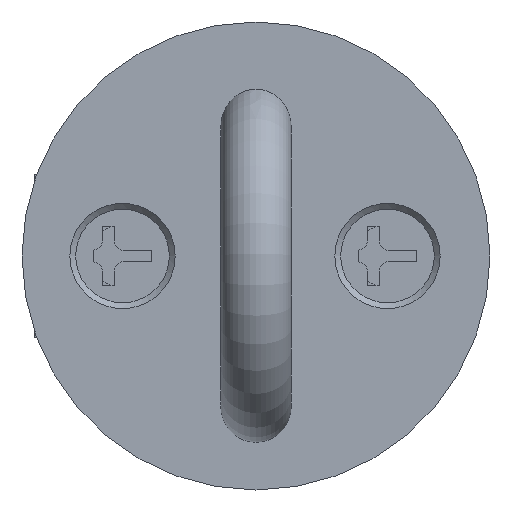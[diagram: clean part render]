
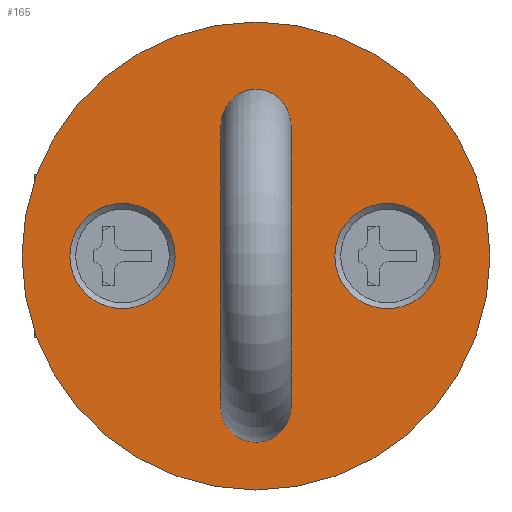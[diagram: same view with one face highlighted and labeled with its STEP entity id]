
A CAD part, front view. The second image highlights one B-rep face of the part: STEP entity #165.
In plain terms, the highlighted planar face has unit normal (0, -1, 0) as drawn and (0, 0, 1) by its records, which use the part's own axes.
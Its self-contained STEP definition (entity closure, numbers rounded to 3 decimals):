
#165=ADVANCED_FACE('',(#304,#305,#306,#307),#308,.T.);
#304=FACE_BOUND('',#464,.T.);
#305=FACE_BOUND('',#465,.T.);
#306=FACE_BOUND('',#466,.T.);
#307=FACE_OUTER_BOUND('',#467,.T.);
#308=PLANE('',#468);
#464=EDGE_LOOP('',(#629));
#465=EDGE_LOOP('',(#630));
#466=EDGE_LOOP('',(#631));
#467=EDGE_LOOP('',(#632));
#468=AXIS2_PLACEMENT_3D('',#633,#634,#635);
#629=ORIENTED_EDGE('',*,*,#973,.T.);
#630=ORIENTED_EDGE('',*,*,#974,.F.);
#631=ORIENTED_EDGE('',*,*,#975,.F.);
#632=ORIENTED_EDGE('',*,*,#976,.T.);
#633=CARTESIAN_POINT('',(20.0,20.0,7.5));
#634=DIRECTION('',(0.0,0.0,1.0));
#635=DIRECTION('',(-1.0,0.0,0.0));
#973=EDGE_CURVE('',#1121,#1121,#1122,.T.);
#974=EDGE_CURVE('',#1123,#1123,#1124,.T.);
#975=EDGE_CURVE('',#1125,#1125,#1126,.T.);
#976=EDGE_CURVE('',#1127,#1127,#1128,.T.);
#1121=VERTEX_POINT('',#1336);
#1122=CIRCLE('',#1337,3.0);
#1123=VERTEX_POINT('',#1338);
#1124=CIRCLE('',#1339,4.5);
#1125=VERTEX_POINT('',#1340);
#1126=CIRCLE('',#1341,4.5);
#1127=VERTEX_POINT('',#1342);
#1128=CIRCLE('',#1343,20.0);
#1336=CARTESIAN_POINT('',(35.914,20.0,7.5));
#1337=AXIS2_PLACEMENT_3D('',#1653,#1654,#1655);
#1338=CARTESIAN_POINT('',(20.0,26.739,7.5));
#1339=AXIS2_PLACEMENT_3D('',#1656,#1657,#1658);
#1340=CARTESIAN_POINT('',(20.0,4.09,7.5));
#1341=AXIS2_PLACEMENT_3D('',#1659,#1660,#1661);
#1342=CARTESIAN_POINT('',(0.,20.0,7.5));
#1343=AXIS2_PLACEMENT_3D('',#1662,#1663,#1664);
#1653=CARTESIAN_POINT('',(32.914,20.0,7.5));
#1654=DIRECTION('',(0.0,0.0,-1.0));
#1655=DIRECTION('',(1.0,0.0,0.0));
#1656=CARTESIAN_POINT('',(20.0,31.239,7.5));
#1657=DIRECTION('',(0.0,0.,1.0));
#1658=DIRECTION('',(0.0,-1.0,0.));
#1659=CARTESIAN_POINT('',(20.0,8.59,7.5));
#1660=DIRECTION('',(0.0,0.,1.0));
#1661=DIRECTION('',(0.0,-1.0,0.));
#1662=CARTESIAN_POINT('',(20.0,20.0,7.5));
#1663=DIRECTION('',(0.0,0.0,1.0));
#1664=DIRECTION('',(-1.0,0.0,0.0));
